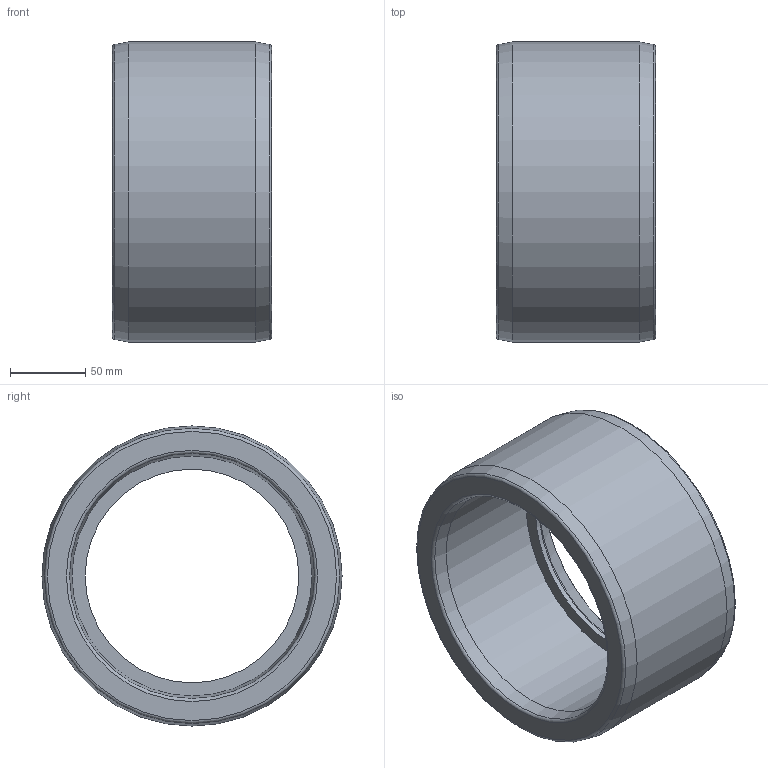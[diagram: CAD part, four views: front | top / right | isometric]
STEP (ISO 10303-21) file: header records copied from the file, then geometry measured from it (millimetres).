
FILE_DESCRIPTION(/* description */ ('PLASSON BUSHING-CEMENT PVC 200-160'),/* implementation_level */ '2;1');
FILE_NAME(/* name */ 'C:\Dropbox\KIMPROJECTS-Inventor\99-16-3568-Processing\PVC Catalog 2017\050900\050900200160.ipt.stp',/* time_stamp */ '2017-12-07T15:59:45+02:00',/* author */ ('KIM'),/* organization */ (''),/* preprocessor_version */ 'ST-DEVELOPER v15.6',/* originating_system */ 'Autodesk Inventor 2015',/* authorisation */ '');
FILE_SCHEMA (('AUTOMOTIVE_DESIGN { 1 0 10303 214 3 1 1 }'));
Length unit declared in the file: millimetre
Products named in the file (1): 050900200160
Bounding box: 106 x 200 x 200 mm (x, y, z)
Volume: 1219322.1 mm3; surface area: 142261.3 mm2
Topology: 1 solids, 1 shells, 15 faces, 27 edges, 15 vertices
Faces by surface type: torus 5, cone 4, cylinder 3, plane 3
Full cylindrical faces by diameter (mm): 142.4 x1, 160 x1, 200 x1
Entity records: 332 total; most frequent: DIRECTION 62, CARTESIAN_POINT 46, AXIS2_PLACEMENT_3D 31, EDGE_LOOP 30, ORIENTED_EDGE 30, FACE_BOUND 15, FACE_OUTER_BOUND 15, CIRCLE 15
